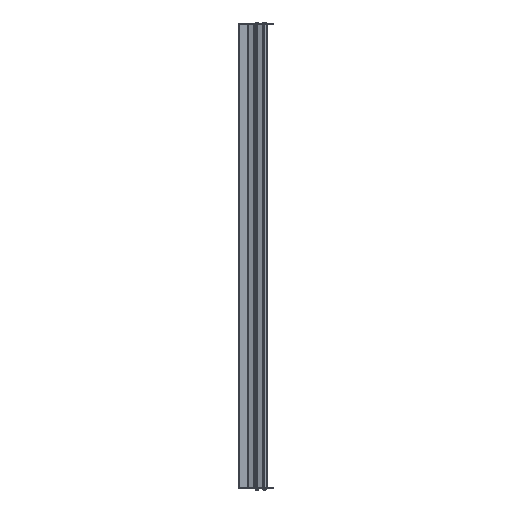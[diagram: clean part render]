
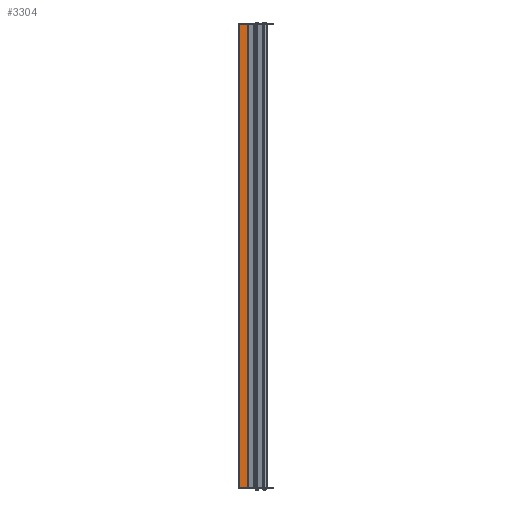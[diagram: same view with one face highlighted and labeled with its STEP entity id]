
A CAD part, left-side view. The second image highlights one B-rep face of the part: STEP entity #3304.
In plain terms, the highlighted planar face has unit normal (-1, 0, 0) as drawn and (1, 0, 0) by its records, which use the part's own axes.
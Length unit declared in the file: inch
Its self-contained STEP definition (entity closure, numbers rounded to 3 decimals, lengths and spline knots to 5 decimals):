
#1909=DIRECTION('',(0.,-1.,0.));
#1910=VECTOR('',#1909,0.88707);
#1911=CARTESIAN_POINT('',(0.048,0.904,-24.118));
#1912=LINE('',#1911,#1910);
#1999=DIRECTION('',(0.,0.,-1.));
#2000=VECTOR('',#1999,48.236);
#2001=CARTESIAN_POINT('',(0.048,0.904,24.118));
#2002=LINE('',#2001,#2000);
#2007=DIRECTION('',(0.,-1.,0.));
#2008=VECTOR('',#2007,0.88707);
#2009=CARTESIAN_POINT('',(0.048,0.904,24.118));
#2010=LINE('',#2009,#2008);
#2015=DIRECTION('',(0.,0.,1.));
#2016=VECTOR('',#2015,48.236);
#2017=CARTESIAN_POINT('',(0.048,0.01693,-24.118));
#2018=LINE('',#2017,#2016);
#2878=CARTESIAN_POINT('',(0.048,0.01693,-24.118));
#2880=VERTEX_POINT('',#2878);
#2912=CARTESIAN_POINT('',(0.048,0.904,-24.118));
#2914=VERTEX_POINT('',#2912);
#2934=CARTESIAN_POINT('',(0.048,0.01693,24.118));
#2936=VERTEX_POINT('',#2934);
#3039=CARTESIAN_POINT('',(0.048,0.904,24.118));
#3040=VERTEX_POINT('',#3039);
#3292=CARTESIAN_POINT('',(0.048,0.,24.118));
#3293=DIRECTION('',(-1.,0.,0.));
#3294=DIRECTION('',(0.,0.,1.));
#3295=AXIS2_PLACEMENT_3D('',#3292,#3293,#3294);
#3296=PLANE('',#3295);
#3297=ORIENTED_EDGE('',*,*,#3127,.T.);
#3299=ORIENTED_EDGE('',*,*,#3298,.T.);
#3300=ORIENTED_EDGE('',*,*,#3155,.F.);
#3301=ORIENTED_EDGE('',*,*,#3285,.T.);
#3302=EDGE_LOOP('',(#3297,#3299,#3300,#3301));
#3303=FACE_OUTER_BOUND('',#3302,.F.);
#3127=EDGE_CURVE('',#2914,#2880,#1912,.T.);
#3155=EDGE_CURVE('',#3040,#2936,#2010,.T.);
#3285=EDGE_CURVE('',#3040,#2914,#2002,.T.);
#3298=EDGE_CURVE('',#2880,#2936,#2018,.T.);
#3304=ADVANCED_FACE('',(#3303),#3296,.F.);
